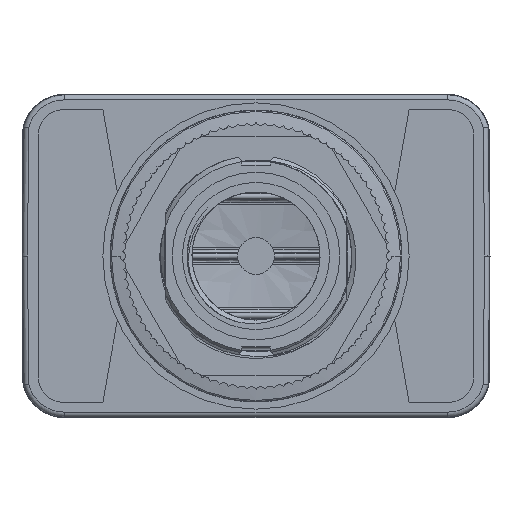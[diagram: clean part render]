
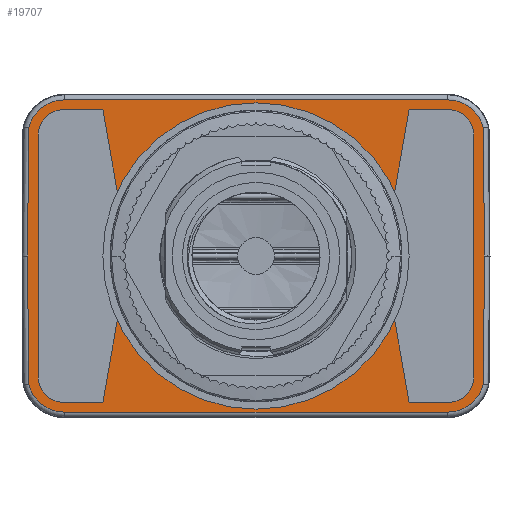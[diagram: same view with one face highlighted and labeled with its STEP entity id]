
A CAD part, front view. The second image highlights one B-rep face of the part: STEP entity #19707.
In plain terms, the highlighted planar face has unit normal (0, -1, 0).
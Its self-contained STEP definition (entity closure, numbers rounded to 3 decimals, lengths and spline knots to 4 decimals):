
#2=CARTESIAN_POINT('',(0.,-0.325,0.));
#3=DIRECTION('',(0.,-1.,0.));
#4=DIRECTION('',(-0.393,0.,-0.92));
#5=AXIS2_PLACEMENT_3D('',#2,#3,#4);
#7=DIRECTION('',(-0.985,0.,-0.174));
#8=VECTOR('',#7,0.5223);
#9=CARTESIAN_POINT('',(-0.3456,-0.325,-0.8093));
#10=LINE('',#9,#8);
#11=DIRECTION('',(0.,0.,-1.));
#12=VECTOR('',#11,0.23);
#13=CARTESIAN_POINT('',(-0.86,-0.325,-0.9));
#14=LINE('',#13,#12);
#15=CARTESIAN_POINT('',(-0.71,-0.325,-1.13));
#16=DIRECTION('',(0.,-1.,0.));
#17=DIRECTION('',(-1.,0.,0.));
#18=AXIS2_PLACEMENT_3D('',#15,#16,#17);
#20=DIRECTION('',(1.,0.,0.));
#21=VECTOR('',#20,1.42);
#22=CARTESIAN_POINT('',(-0.71,-0.325,-1.28));
#23=LINE('',#22,#21);
#24=CARTESIAN_POINT('',(0.71,-0.325,-1.13));
#25=DIRECTION('',(0.,-1.,0.));
#26=DIRECTION('',(0.,0.,-1.));
#27=AXIS2_PLACEMENT_3D('',#24,#25,#26);
#29=DIRECTION('',(0.,0.,1.));
#30=VECTOR('',#29,0.23);
#31=CARTESIAN_POINT('',(0.86,-0.325,-1.13));
#32=LINE('',#31,#30);
#33=DIRECTION('',(-0.985,0.,0.174));
#34=VECTOR('',#33,0.5223);
#35=CARTESIAN_POINT('',(0.86,-0.325,-0.9));
#36=LINE('',#35,#34);
#37=DIRECTION('',(0.,0.,1.));
#38=VECTOR('',#37,0.23);
#39=CARTESIAN_POINT('',(0.86,-0.325,0.9));
#40=LINE('',#39,#38);
#41=CARTESIAN_POINT('',(0.71,-0.325,1.13));
#42=DIRECTION('',(0.,-1.,0.));
#43=DIRECTION('',(1.,0.,0.));
#44=AXIS2_PLACEMENT_3D('',#41,#42,#43);
#46=DIRECTION('',(-1.,0.,0.));
#47=VECTOR('',#46,1.42);
#48=CARTESIAN_POINT('',(0.71,-0.325,1.28));
#49=LINE('',#48,#47);
#50=CARTESIAN_POINT('',(-0.71,-0.325,1.13));
#51=DIRECTION('',(0.,-1.,0.));
#52=DIRECTION('',(0.,0.,1.));
#53=AXIS2_PLACEMENT_3D('',#50,#51,#52);
#55=DIRECTION('',(0.,0.,-1.));
#56=VECTOR('',#55,0.23);
#57=CARTESIAN_POINT('',(-0.86,-0.325,1.13));
#58=LINE('',#57,#56);
#59=DIRECTION('',(0.985,0.,-0.174));
#60=VECTOR('',#59,0.5223);
#61=CARTESIAN_POINT('',(-0.86,-0.325,0.9));
#62=LINE('',#61,#60);
#63=CARTESIAN_POINT('',(0.,-0.325,0.));
#64=DIRECTION('',(0.,-1.,0.));
#65=DIRECTION('',(0.393,0.,0.92));
#66=AXIS2_PLACEMENT_3D('',#63,#64,#65);
#68=DIRECTION('',(0.985,0.,0.174));
#69=VECTOR('',#68,0.5223);
#70=CARTESIAN_POINT('',(0.3456,-0.325,0.8093));
#71=LINE('',#70,#69);
#72=CARTESIAN_POINT('',(0.,-0.325,0.));
#73=DIRECTION('',(0.,-1.,0.));
#74=DIRECTION('',(1.,0.,0.));
#75=AXIS2_PLACEMENT_3D('',#72,#73,#74);
#87=CARTESIAN_POINT('',(0.,-0.325,0.));
#88=DIRECTION('',(0.,-1.,0.));
#89=DIRECTION('',(-1.,0.,0.));
#90=AXIS2_PLACEMENT_3D('',#87,#88,#89);
#5549=DIRECTION('',(1.,0.,-0.009));
#5550=VECTOR('',#5549,0.7531);
#5551=CARTESIAN_POINT('',(-0.7531,-0.325,-1.3359));
#5552=LINE('',#5551,#5550);
#5585=CARTESIAN_POINT('',(-0.7,-0.325,-1.125));
#5586=DIRECTION('',(0.,-1.,0.));
#5587=DIRECTION('',(-1.,0.,0.));
#5588=AXIS2_PLACEMENT_3D('',#5585,#5586,#5587);
#5652=DIRECTION('',(0.,0.,-1.));
#5653=VECTOR('',#5652,2.25);
#5654=CARTESIAN_POINT('',(-0.9174,-0.325,1.125));
#5655=LINE('',#5654,#5653);
#5665=CARTESIAN_POINT('',(-0.7,-0.325,1.125));
#5666=DIRECTION('',(0.,-1.,0.));
#5667=DIRECTION('',(-0.244,0.,0.97));
#5668=AXIS2_PLACEMENT_3D('',#5665,#5666,#5667);
#5684=DIRECTION('',(-1.,0.,-0.009));
#5685=VECTOR('',#5684,0.7531);
#5686=CARTESIAN_POINT('',(0.,-0.325,1.3424));
#5687=LINE('',#5686,#5685);
#5714=DIRECTION('',(-1.,0.,0.009));
#5715=VECTOR('',#5714,0.7531);
#5716=CARTESIAN_POINT('',(0.7531,-0.325,1.3359));
#5717=LINE('',#5716,#5715);
#5763=CARTESIAN_POINT('',(0.7,-0.325,1.125));
#5764=DIRECTION('',(0.,-1.,0.));
#5765=DIRECTION('',(1.,0.,0.));
#5766=AXIS2_PLACEMENT_3D('',#5763,#5764,#5765);
#5790=DIRECTION('',(0.,0.,1.));
#5791=VECTOR('',#5790,2.25);
#5792=CARTESIAN_POINT('',(0.9174,-0.325,-1.125));
#5793=LINE('',#5792,#5791);
#5807=CARTESIAN_POINT('',(0.7,-0.325,-1.125));
#5808=DIRECTION('',(0.,-1.,0.));
#5809=DIRECTION('',(0.244,0.,-0.97));
#5810=AXIS2_PLACEMENT_3D('',#5807,#5808,#5809);
#5839=DIRECTION('',(1.,0.,0.009));
#5840=VECTOR('',#5839,0.7531);
#5841=CARTESIAN_POINT('',(0.,-0.325,-1.3424));
#5842=LINE('',#5841,#5840);
#19328=CARTESIAN_POINT('',(0.6105,-0.325,0.));
#19329=CARTESIAN_POINT('',(-0.6105,-0.325,0.));
#19330=VERTEX_POINT('',#19328);
#19331=VERTEX_POINT('',#19329);
#19384=CARTESIAN_POINT('',(-0.3456,-0.325,-0.8093));
#19385=CARTESIAN_POINT('',(0.3456,-0.325,-0.8093));
#19386=VERTEX_POINT('',#19384);
#19387=VERTEX_POINT('',#19385);
#19388=CARTESIAN_POINT('',(-0.86,-0.325,-0.9));
#19389=VERTEX_POINT('',#19388);
#19390=CARTESIAN_POINT('',(-0.86,-0.325,-1.13));
#19391=VERTEX_POINT('',#19390);
#19392=CARTESIAN_POINT('',(-0.71,-0.325,-1.28));
#19393=VERTEX_POINT('',#19392);
#19394=CARTESIAN_POINT('',(0.71,-0.325,-1.28));
#19395=VERTEX_POINT('',#19394);
#19396=CARTESIAN_POINT('',(0.86,-0.325,-1.13));
#19397=VERTEX_POINT('',#19396);
#19398=CARTESIAN_POINT('',(0.86,-0.325,-0.9));
#19399=VERTEX_POINT('',#19398);
#19416=CARTESIAN_POINT('',(0.86,-0.325,0.9));
#19417=CARTESIAN_POINT('',(0.86,-0.325,1.13));
#19418=VERTEX_POINT('',#19416);
#19419=VERTEX_POINT('',#19417);
#19420=CARTESIAN_POINT('',(0.71,-0.325,1.28));
#19421=VERTEX_POINT('',#19420);
#19422=CARTESIAN_POINT('',(-0.71,-0.325,1.28));
#19423=VERTEX_POINT('',#19422);
#19424=CARTESIAN_POINT('',(-0.86,-0.325,1.13));
#19425=VERTEX_POINT('',#19424);
#19426=CARTESIAN_POINT('',(-0.86,-0.325,0.9));
#19427=VERTEX_POINT('',#19426);
#19428=CARTESIAN_POINT('',(-0.3456,-0.325,0.8093));
#19429=VERTEX_POINT('',#19428);
#19430=CARTESIAN_POINT('',(0.3456,-0.325,0.8093));
#19431=VERTEX_POINT('',#19430);
#19436=CARTESIAN_POINT('',(0.7531,-0.325,1.3359));
#19437=CARTESIAN_POINT('',(0.,-0.325,1.3424));
#19438=VERTEX_POINT('',#19436);
#19439=VERTEX_POINT('',#19437);
#19442=CARTESIAN_POINT('',(-0.7531,-0.325,1.3359));
#19443=VERTEX_POINT('',#19442);
#19448=CARTESIAN_POINT('',(-0.9174,-0.325,-1.125));
#19449=CARTESIAN_POINT('',(-0.7531,-0.325,-1.3359));
#19450=VERTEX_POINT('',#19448);
#19451=VERTEX_POINT('',#19449);
#19452=CARTESIAN_POINT('',(-0.9174,-0.325,1.125));
#19453=VERTEX_POINT('',#19452);
#19458=CARTESIAN_POINT('',(0.,-0.325,-1.3424));
#19459=VERTEX_POINT('',#19458);
#19460=CARTESIAN_POINT('',(0.7531,-0.325,-1.3359));
#19461=VERTEX_POINT('',#19460);
#19466=CARTESIAN_POINT('',(0.9174,-0.325,1.125));
#19467=VERTEX_POINT('',#19466);
#19468=CARTESIAN_POINT('',(0.9174,-0.325,-1.125));
#19469=VERTEX_POINT('',#19468);
#19638=CARTESIAN_POINT('',(0.,-0.325,0.));
#19639=DIRECTION('',(0.,-1.,0.));
#19640=DIRECTION('',(1.,0.,0.));
#19641=AXIS2_PLACEMENT_3D('',#19638,#19639,#19640);
#19642=PLANE('',#19641);
#19644=ORIENTED_EDGE('',*,*,#19643,.F.);
#19646=ORIENTED_EDGE('',*,*,#19645,.F.);
#19648=ORIENTED_EDGE('',*,*,#19647,.F.);
#19650=ORIENTED_EDGE('',*,*,#19649,.F.);
#19652=ORIENTED_EDGE('',*,*,#19651,.F.);
#19654=ORIENTED_EDGE('',*,*,#19653,.F.);
#19656=ORIENTED_EDGE('',*,*,#19655,.F.);
#19658=ORIENTED_EDGE('',*,*,#19657,.F.);
#19660=ORIENTED_EDGE('',*,*,#19659,.F.);
#19662=ORIENTED_EDGE('',*,*,#19661,.F.);
#19663=EDGE_LOOP('',(#19644,#19646,#19648,#19650,#19652,#19654,#19656,#19658,
#19660,#19662));
#19664=FACE_OUTER_BOUND('',#19663,.F.);
#19666=ORIENTED_EDGE('',*,*,#19665,.T.);
#19668=ORIENTED_EDGE('',*,*,#19667,.T.);
#19669=EDGE_LOOP('',(#19666,#19668));
#19670=FACE_BOUND('',#19669,.F.);
#19672=ORIENTED_EDGE('',*,*,#19671,.F.);
#19674=ORIENTED_EDGE('',*,*,#19673,.T.);
#19676=ORIENTED_EDGE('',*,*,#19675,.T.);
#19678=ORIENTED_EDGE('',*,*,#19677,.T.);
#19680=ORIENTED_EDGE('',*,*,#19679,.T.);
#19682=ORIENTED_EDGE('',*,*,#19681,.T.);
#19684=ORIENTED_EDGE('',*,*,#19683,.T.);
#19686=ORIENTED_EDGE('',*,*,#19685,.T.);
#19687=EDGE_LOOP('',(#19672,#19674,#19676,#19678,#19680,#19682,#19684,#19686));
#19688=FACE_BOUND('',#19687,.F.);
#19690=ORIENTED_EDGE('',*,*,#19689,.T.);
#19692=ORIENTED_EDGE('',*,*,#19691,.T.);
#19694=ORIENTED_EDGE('',*,*,#19693,.T.);
#19696=ORIENTED_EDGE('',*,*,#19695,.T.);
#19698=ORIENTED_EDGE('',*,*,#19697,.T.);
#19700=ORIENTED_EDGE('',*,*,#19699,.T.);
#19702=ORIENTED_EDGE('',*,*,#19701,.F.);
#19704=ORIENTED_EDGE('',*,*,#19703,.T.);
#19705=EDGE_LOOP('',(#19690,#19692,#19694,#19696,#19698,#19700,#19702,#19704));
#19706=FACE_BOUND('',#19705,.F.);
#19707=ADVANCED_FACE('',(#19664,#19670,#19688,#19706),#19642,.T.);
#6=CIRCLE('',#5,0.88);
#19=CIRCLE('',#18,0.15);
#28=CIRCLE('',#27,0.15);
#45=CIRCLE('',#44,0.15);
#54=CIRCLE('',#53,0.15);
#67=CIRCLE('',#66,0.88);
#76=CIRCLE('',#75,0.6105);
#91=CIRCLE('',#90,0.6105);
#5589=CIRCLE('',#5588,0.2174);
#5669=CIRCLE('',#5668,0.2174);
#5767=CIRCLE('',#5766,0.2174);
#5811=CIRCLE('',#5810,0.2174);
#19643=EDGE_CURVE('',#19438,#19439,#5717,.T.);
#19645=EDGE_CURVE('',#19467,#19438,#5767,.T.);
#19647=EDGE_CURVE('',#19469,#19467,#5793,.T.);
#19649=EDGE_CURVE('',#19461,#19469,#5811,.T.);
#19651=EDGE_CURVE('',#19459,#19461,#5842,.T.);
#19653=EDGE_CURVE('',#19451,#19459,#5552,.T.);
#19655=EDGE_CURVE('',#19450,#19451,#5589,.T.);
#19657=EDGE_CURVE('',#19453,#19450,#5655,.T.);
#19659=EDGE_CURVE('',#19443,#19453,#5669,.T.);
#19661=EDGE_CURVE('',#19439,#19443,#5687,.T.);
#19665=EDGE_CURVE('',#19330,#19331,#76,.T.);
#19667=EDGE_CURVE('',#19331,#19330,#91,.T.);
#19671=EDGE_CURVE('',#19386,#19387,#6,.T.);
#19673=EDGE_CURVE('',#19386,#19389,#10,.T.);
#19675=EDGE_CURVE('',#19389,#19391,#14,.T.);
#19677=EDGE_CURVE('',#19391,#19393,#19,.T.);
#19679=EDGE_CURVE('',#19393,#19395,#23,.T.);
#19681=EDGE_CURVE('',#19395,#19397,#28,.T.);
#19683=EDGE_CURVE('',#19397,#19399,#32,.T.);
#19685=EDGE_CURVE('',#19399,#19387,#36,.T.);
#19689=EDGE_CURVE('',#19418,#19419,#40,.T.);
#19691=EDGE_CURVE('',#19419,#19421,#45,.T.);
#19693=EDGE_CURVE('',#19421,#19423,#49,.T.);
#19695=EDGE_CURVE('',#19423,#19425,#54,.T.);
#19697=EDGE_CURVE('',#19425,#19427,#58,.T.);
#19699=EDGE_CURVE('',#19427,#19429,#62,.T.);
#19701=EDGE_CURVE('',#19431,#19429,#67,.T.);
#19703=EDGE_CURVE('',#19431,#19418,#71,.T.);
